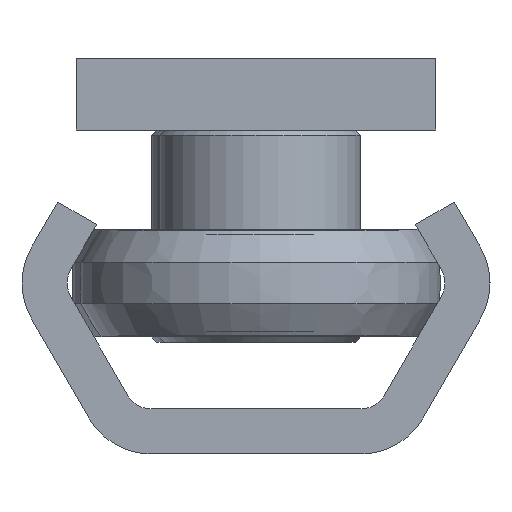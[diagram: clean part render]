
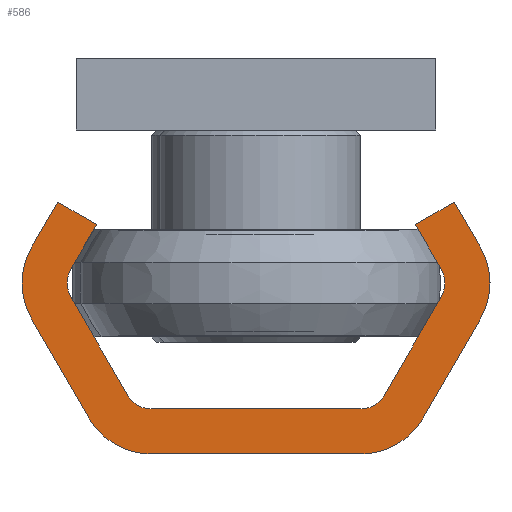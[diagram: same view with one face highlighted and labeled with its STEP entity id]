
A CAD part, left-side view. The second image highlights one B-rep face of the part: STEP entity #586.
In plain terms, the highlighted planar face has unit normal (-1, 0, 0).
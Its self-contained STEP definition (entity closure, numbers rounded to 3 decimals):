
#586 = ADVANCED_FACE( '', ( #1182 ), #1183, .F. );
#1182 = FACE_OUTER_BOUND( '', #1958, .T. );
#1183 = PLANE( '', #1959 );
#1958 = EDGE_LOOP( '', ( #3051, #3052, #3053, #3054, #3055, #3056, #3057, #3058, #3059, #3060, #3061, #3062, #3063, #3064, #3065, #3066, #3067, #3068, #3069, #3070 ) );
#1959 = AXIS2_PLACEMENT_3D( '', #3071, #3072, #3073 );
#3051 = ORIENTED_EDGE( '', *, *, #3549, .F. );
#3052 = ORIENTED_EDGE( '', *, *, #3511, .F. );
#3053 = ORIENTED_EDGE( '', *, *, #3571, .F. );
#3054 = ORIENTED_EDGE( '', *, *, #3572, .F. );
#3055 = ORIENTED_EDGE( '', *, *, #3368, .F. );
#3056 = ORIENTED_EDGE( '', *, *, #3384, .F. );
#3057 = ORIENTED_EDGE( '', *, *, #3536, .F. );
#3058 = ORIENTED_EDGE( '', *, *, #3474, .T. );
#3059 = ORIENTED_EDGE( '', *, *, #3559, .F. );
#3060 = ORIENTED_EDGE( '', *, *, #3486, .T. );
#3061 = ORIENTED_EDGE( '', *, *, #3573, .F. );
#3062 = ORIENTED_EDGE( '', *, *, #3506, .T. );
#3063 = ORIENTED_EDGE( '', *, *, #3265, .F. );
#3064 = ORIENTED_EDGE( '', *, *, #3325, .T. );
#3065 = ORIENTED_EDGE( '', *, *, #3374, .F. );
#3066 = ORIENTED_EDGE( '', *, *, #3345, .F. );
#3067 = ORIENTED_EDGE( '', *, *, #3565, .F. );
#3068 = ORIENTED_EDGE( '', *, *, #3313, .F. );
#3069 = ORIENTED_EDGE( '', *, *, #3284, .F. );
#3070 = ORIENTED_EDGE( '', *, *, #3293, .F. );
#3071 = CARTESIAN_POINT( '', ( 0., -5.825, -4. ) );
#3072 = DIRECTION( '', ( 1., 0., 0. ) );
#3073 = DIRECTION( '', ( 0., 0., -1. ) );
#3265 = EDGE_CURVE( '', #3771, #3772, #3773, .T. );
#3284 = EDGE_CURVE( '', #3802, #3803, #3804, .T. );
#3293 = EDGE_CURVE( '', #3817, #3802, #3818, .T. );
#3313 = EDGE_CURVE( '', #3803, #3849, #3850, .T. );
#3325 = EDGE_CURVE( '', #3771, #3868, #3869, .T. );
#3345 = EDGE_CURVE( '', #3894, #3895, #3896, .T. );
#3368 = EDGE_CURVE( '', #3929, #3930, #3931, .T. );
#3374 = EDGE_CURVE( '', #3895, #3868, #3938, .T. );
#3384 = EDGE_CURVE( '', #3949, #3929, #3950, .T. );
#3474 = EDGE_CURVE( '', #4080, #4081, #4082, .T. );
#3486 = EDGE_CURVE( '', #4096, #4097, #4098, .T. );
#3506 = EDGE_CURVE( '', #4125, #3772, #4126, .T. );
#3511 = EDGE_CURVE( '', #4131, #4132, #4133, .T. );
#3536 = EDGE_CURVE( '', #4080, #3949, #4163, .T. );
#3549 = EDGE_CURVE( '', #4132, #3817, #4178, .T. );
#3559 = EDGE_CURVE( '', #4096, #4081, #4189, .T. );
#3565 = EDGE_CURVE( '', #3849, #3894, #4195, .T. );
#3571 = EDGE_CURVE( '', #4201, #4131, #4202, .T. );
#3572 = EDGE_CURVE( '', #3930, #4201, #4203, .T. );
#3573 = EDGE_CURVE( '', #4125, #4097, #4204, .T. );
#3771 = VERTEX_POINT( '', #4445 );
#3772 = VERTEX_POINT( '', #4446 );
#3773 = LINE( '', #4447, #4448 );
#3802 = VERTEX_POINT( '', #4485 );
#3803 = VERTEX_POINT( '', #4486 );
#3804 = LINE( '', #4487, #4488 );
#3817 = VERTEX_POINT( '', #4505 );
#3818 = CIRCLE( '', #4506, 4. );
#3849 = VERTEX_POINT( '', #4544 );
#3850 = CIRCLE( '', #4545, 4. );
#3868 = VERTEX_POINT( '', #4564 );
#3869 = CIRCLE( '', #4565, 1.5 );
#3894 = VERTEX_POINT( '', #4596 );
#3895 = VERTEX_POINT( '', #4597 );
#3896 = LINE( '', #4598, #4599 );
#3929 = VERTEX_POINT( '', #4636 );
#3930 = VERTEX_POINT( '', #4637 );
#3931 = LINE( '', #4638, #4639 );
#3938 = LINE( '', #4648, #4649 );
#3949 = VERTEX_POINT( '', #4661 );
#3950 = LINE( '', #4662, #4663 );
#4080 = VERTEX_POINT( '', #4821 );
#4081 = VERTEX_POINT( '', #4822 );
#4082 = CIRCLE( '', #4823, 1.5 );
#4096 = VERTEX_POINT( '', #4840 );
#4097 = VERTEX_POINT( '', #4841 );
#4098 = CIRCLE( '', #4842, 1.5 );
#4125 = VERTEX_POINT( '', #4872 );
#4126 = CIRCLE( '', #4873, 1.5 );
#4131 = VERTEX_POINT( '', #4879 );
#4132 = VERTEX_POINT( '', #4880 );
#4133 = CIRCLE( '', #4881, 4. );
#4163 = LINE( '', #4914, #4915 );
#4178 = LINE( '', #4931, #4932 );
#4189 = LINE( '', #4943, #4944 );
#4195 = LINE( '', #4951, #4952 );
#4201 = VERTEX_POINT( '', #4958 );
#4202 = LINE( '', #4959, #4960 );
#4203 = CIRCLE( '', #4961, 4. );
#4204 = LINE( '', #4962, #4963 );
#4445 = CARTESIAN_POINT( '', ( 0., -10.299, -8.75 ) );
#4446 = CARTESIAN_POINT( '', ( 0., -7.124, -3.25 ) );
#4447 = CARTESIAN_POINT( '', ( 0., -10.299, -8.75 ) );
#4448 = VECTOR( '', #5155, 1000. );
#4485 = CARTESIAN_POINT( '', ( 0., -9.289, -2. ) );
#4486 = CARTESIAN_POINT( '', ( 0., -12.464, -7.5 ) );
#4487 = CARTESIAN_POINT( '', ( 0., -9.289, -2. ) );
#4488 = VECTOR( '', #5176, 1000. );
#4505 = CARTESIAN_POINT( '', ( 0., -5.825, 0. ) );
#4506 = AXIS2_PLACEMENT_3D( '', #5187, #5188, #5189 );
#4544 = CARTESIAN_POINT( '', ( 0., -12.464, -11.5 ) );
#4545 = AXIS2_PLACEMENT_3D( '', #5215, #5216, #5217 );
#4564 = CARTESIAN_POINT( '', ( 0., -10.299, -10.25 ) );
#4565 = AXIS2_PLACEMENT_3D( '', #5237, #5238, #5239 );
#4596 = CARTESIAN_POINT( '', ( 0., -11.021, -14. ) );
#4597 = CARTESIAN_POINT( '', ( 0., -8.856, -12.75 ) );
#4598 = CARTESIAN_POINT( '', ( 0., -11.021, -14. ) );
#4599 = VECTOR( '', #5264, 1000. );
#4636 = CARTESIAN_POINT( '', ( 0., 11.021, -14. ) );
#4637 = CARTESIAN_POINT( '', ( 0., 12.464, -11.5 ) );
#4638 = CARTESIAN_POINT( '', ( 0., 11.021, -14. ) );
#4639 = VECTOR( '', #5296, 1000. );
#4648 = CARTESIAN_POINT( '', ( 0., -8.856, -12.75 ) );
#4649 = VECTOR( '', #5302, 1000. );
#4661 = CARTESIAN_POINT( '', ( 0., 8.856, -12.75 ) );
#4662 = CARTESIAN_POINT( '', ( 0., 8.856, -12.75 ) );
#4663 = VECTOR( '', #5313, 1000. );
#4821 = CARTESIAN_POINT( '', ( 0., 10.299, -10.25 ) );
#4822 = CARTESIAN_POINT( '', ( 0., 10.299, -8.75 ) );
#4823 = AXIS2_PLACEMENT_3D( '', #5441, #5442, #5443 );
#4840 = CARTESIAN_POINT( '', ( 0., 7.124, -3.25 ) );
#4841 = CARTESIAN_POINT( '', ( 0., 5.825, -2.5 ) );
#4842 = AXIS2_PLACEMENT_3D( '', #5453, #5454, #5455 );
#4872 = CARTESIAN_POINT( '', ( 0., -5.825, -2.5 ) );
#4873 = AXIS2_PLACEMENT_3D( '', #5480, #5481, #5482 );
#4879 = CARTESIAN_POINT( '', ( 0., 9.289, -2. ) );
#4880 = CARTESIAN_POINT( '', ( 0., 5.825, 0. ) );
#4881 = AXIS2_PLACEMENT_3D( '', #5484, #5485, #5486 );
#4914 = CARTESIAN_POINT( '', ( 0., 10.299, -10.25 ) );
#4915 = VECTOR( '', #5514, 1000. );
#4931 = CARTESIAN_POINT( '', ( 0., 5.825, 0. ) );
#4932 = VECTOR( '', #5531, 1000. );
#4943 = CARTESIAN_POINT( '', ( 0., 7.124, -3.25 ) );
#4944 = VECTOR( '', #5535, 1000. );
#4951 = CARTESIAN_POINT( '', ( 0., -12.464, -11.5 ) );
#4952 = VECTOR( '', #5537, 1000. );
#4958 = CARTESIAN_POINT( '', ( 0., 12.464, -7.5 ) );
#4959 = CARTESIAN_POINT( '', ( 0., 12.464, -7.5 ) );
#4960 = VECTOR( '', #5538, 1000. );
#4961 = AXIS2_PLACEMENT_3D( '', #5539, #5540, #5541 );
#4962 = CARTESIAN_POINT( '', ( 0., -5.825, -2.5 ) );
#4963 = VECTOR( '', #5542, 1000. );
#5155 = DIRECTION( '', ( 0., 0.5, 0.866 ) );
#5176 = DIRECTION( '', ( 0., -0.5, -0.866 ) );
#5187 = CARTESIAN_POINT( '', ( 0., -5.825, -4. ) );
#5188 = DIRECTION( '', ( 1., 0., 0. ) );
#5189 = DIRECTION( '', ( 0., 0., -1. ) );
#5215 = CARTESIAN_POINT( '', ( 0., -9., -9.5 ) );
#5216 = DIRECTION( '', ( 1., 0., 0. ) );
#5217 = DIRECTION( '', ( 0., 0., -1. ) );
#5237 = CARTESIAN_POINT( '', ( 0., -9., -9.5 ) );
#5238 = DIRECTION( '', ( 1., 0., 0. ) );
#5239 = DIRECTION( '', ( 0., 0., -1. ) );
#5264 = DIRECTION( '', ( 0., 0.866, 0.5 ) );
#5296 = DIRECTION( '', ( 0., 0.5, 0.866 ) );
#5302 = DIRECTION( '', ( 0., -0.5, 0.866 ) );
#5313 = DIRECTION( '', ( 0., 0.866, -0.5 ) );
#5441 = CARTESIAN_POINT( '', ( 0., 9., -9.5 ) );
#5442 = DIRECTION( '', ( 1., 0., 0. ) );
#5443 = DIRECTION( '', ( 0., 0., -1. ) );
#5453 = CARTESIAN_POINT( '', ( 0., 5.825, -4. ) );
#5454 = DIRECTION( '', ( 1., 0., 0. ) );
#5455 = DIRECTION( '', ( 0., 0., -1. ) );
#5480 = CARTESIAN_POINT( '', ( 0., -5.825, -4. ) );
#5481 = DIRECTION( '', ( 1., 0., 0. ) );
#5482 = DIRECTION( '', ( 0., 0., -1. ) );
#5484 = CARTESIAN_POINT( '', ( 0., 5.825, -4. ) );
#5485 = DIRECTION( '', ( 1., 0., 0. ) );
#5486 = DIRECTION( '', ( 0., 0., -1. ) );
#5514 = DIRECTION( '', ( 0., -0.5, -0.866 ) );
#5531 = DIRECTION( '', ( 0., -1., 0. ) );
#5535 = DIRECTION( '', ( 0., 0.5, -0.866 ) );
#5537 = DIRECTION( '', ( 0., 0.5, -0.866 ) );
#5538 = DIRECTION( '', ( 0., -0.5, 0.866 ) );
#5539 = CARTESIAN_POINT( '', ( 0., 9., -9.5 ) );
#5540 = DIRECTION( '', ( 1., 0., 0. ) );
#5541 = DIRECTION( '', ( 0., 0., -1. ) );
#5542 = DIRECTION( '', ( 0., 1., 0. ) );
